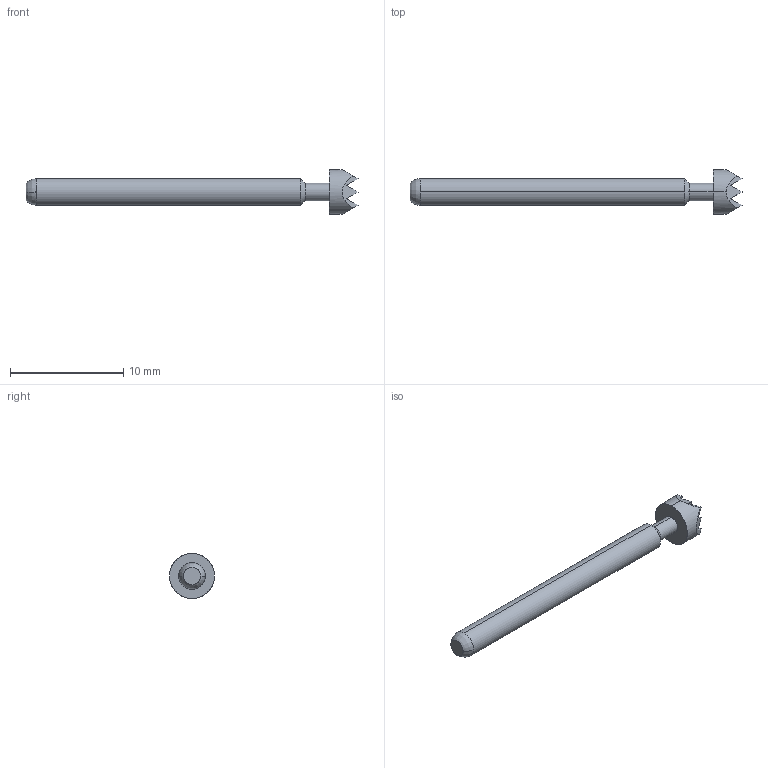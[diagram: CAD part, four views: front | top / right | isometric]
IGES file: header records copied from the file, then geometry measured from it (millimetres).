
Start section: SolidWorks IGES file using analytic representation for surfaces
Global section: file name: Z:\probe solid model mockups\Solidworks models\IGES Files\EPA-4 IGES files\EPA-4H RECD.IGS; native system: SolidWorks 2006 by SolidWorks Corporation; preprocessor: SolidWorks 2006 by SolidWorks Corporation; author: tsakatani; date: 080103.104520; units: inch
Bounding box: 29.29 x 3.96 x 3.96 mm (x, y, z)
Surface area: 248.9 mm2 (no closed solid volume)
Topology: 0 solids, 0 shells, 40 faces, 266 edges, 266 vertices
Faces by surface type: bspline 30, revolution 10
